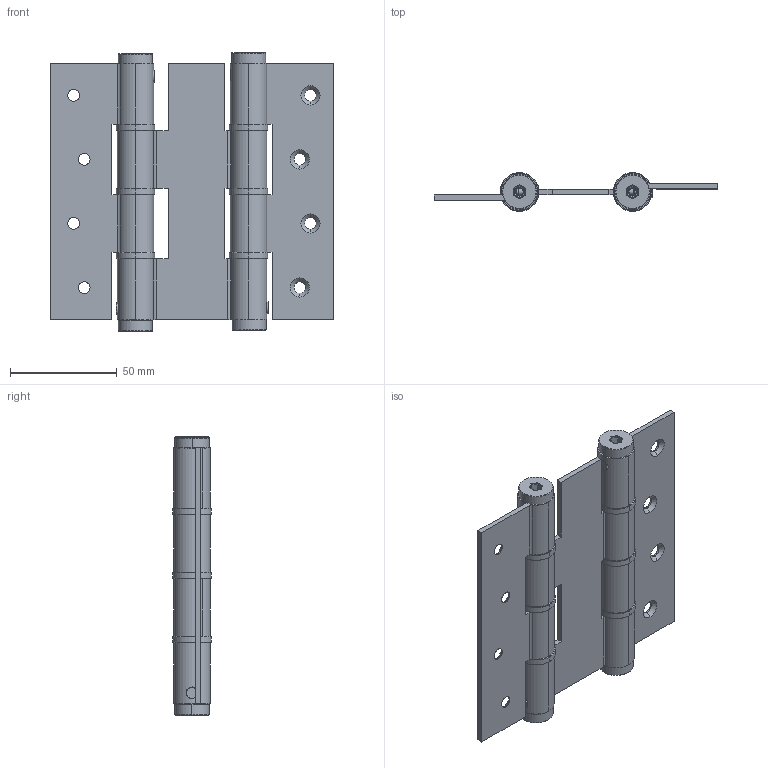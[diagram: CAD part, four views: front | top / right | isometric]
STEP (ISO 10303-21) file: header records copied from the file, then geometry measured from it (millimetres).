
FILE_DESCRIPTION((''),'2;1');
FILE_NAME('158.5314.05.stp','2015-02-16T15:54:02',(''),(''),'Mechanical Desktop 2006','Mechanical Desktop 2006',', , ');
FILE_SCHEMA(('CONFIG_CONTROL_DESIGN'));
Length unit declared in the file: millimetre
Products named in the file (8): DA120_5414.05_; 057.028.0.0 55719 TAP FRONTISSA -FORADAT-(1); 057.020.0.2 PASSADOR FRONTISSES 3 X 9.5(1); TEIL4; TEIL5; TEIL3; ~TEIL5; ~~TEIL5
Assembly tree (19 placements, depth 2):
  DA120_5414.05_
    057.028.0.0 55719 TAP FRONTISSA -FORADAT-(1)  x4
    057.020.0.2 PASSADOR FRONTISSES 3 X 9.5(1)  x4
    TEIL4  x6
    TEIL5
    TEIL3  x2
    ~TEIL5
    ~~TEIL5
Bounding box: 133 x 18 x 130.5 mm (x, y, z)
Volume: 69658.5 mm3; surface area: 68510.4 mm2
Topology: 15 solids, 23 shells, 618 faces, 1580 edges, 964 vertices
Faces by surface type: cylinder 320, plane 170, cone 96, sphere 16, torus 16
Entity records: 8667 total; most frequent: CARTESIAN_POINT 1853, DIRECTION 1484, ORIENTED_EDGE 1340, EDGE_CURVE 672, AXIS2_PLACEMENT_3D 578, VERTEX_POINT 425, VECTOR 328, LINE 328
